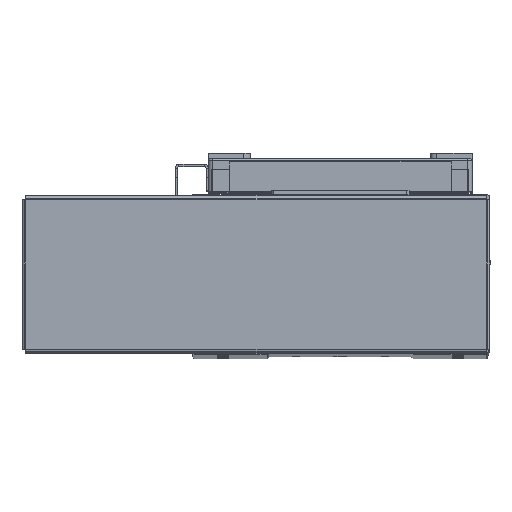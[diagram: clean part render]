
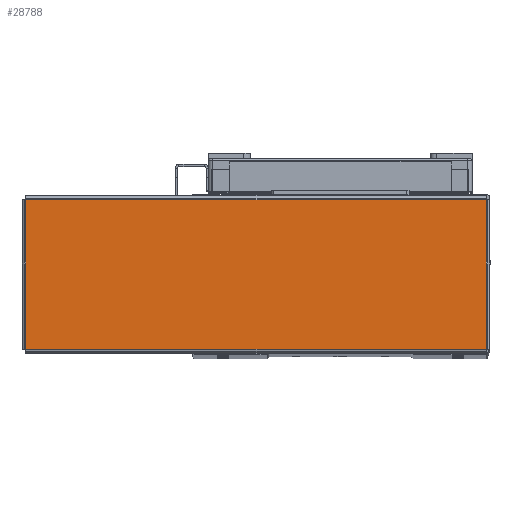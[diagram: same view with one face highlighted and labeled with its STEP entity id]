
A CAD part, top view. The second image highlights one B-rep face of the part: STEP entity #28788.
In plain terms, the highlighted planar face has unit normal (0, 0, 1) as drawn and (0, -1, 0) by its records, which use the part's own axes.
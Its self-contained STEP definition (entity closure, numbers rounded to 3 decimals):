
#8368 = EDGE_LOOP ( 'NONE', ( #22451, #22511, #22500, #22510 ) ) ;
#18808 = EDGE_CURVE ( 'NONE', #27153, #21563, #56174, .T. ) ;
#18830 = EDGE_CURVE ( 'NONE', #21563, #21549, #56208, .T. ) ;
#18870 = EDGE_CURVE ( 'NONE', #21549, #21506, #56309, .T. ) ;
#18872 = EDGE_CURVE ( 'NONE', #21506, #27153, #56298, .T. ) ;
#21506 = VERTEX_POINT ( 'NONE', #58977 ) ;
#21549 = VERTEX_POINT ( 'NONE', #58981 ) ;
#21563 = VERTEX_POINT ( 'NONE', #58961 ) ;
#22451 = ORIENTED_EDGE ( 'NONE', *, *, #18872, .T. ) ;
#22500 = ORIENTED_EDGE ( 'NONE', *, *, #18830, .T. ) ;
#22510 = ORIENTED_EDGE ( 'NONE', *, *, #18870, .T. ) ;
#22511 = ORIENTED_EDGE ( 'NONE', *, *, #18808, .T. ) ;
#27153 = VERTEX_POINT ( 'NONE', #59499 ) ;
#28788 = ADVANCED_FACE ( 'NONE', ( #60674 ), #62256, .F. ) ;
#53287 = AXIS2_PLACEMENT_3D ( 'NONE', #62266, #62253, #62273 ) ;
#56154 = VECTOR ( 'NONE', #57698, 1000. ) ;
#56174 = LINE ( 'NONE', #57682, #56154 ) ;
#56208 = LINE ( 'NONE', #57760, #56210 ) ;
#56210 = VECTOR ( 'NONE', #57781, 1000. ) ;
#56280 = VECTOR ( 'NONE', #58004, 1000. ) ;
#56283 = VECTOR ( 'NONE', #57990, 1000. ) ;
#56298 = LINE ( 'NONE', #57974, #56283 ) ;
#56309 = LINE ( 'NONE', #57997, #56280 ) ;
#57682 = CARTESIAN_POINT ( 'NONE',  ( -103.763, -1., 33.793 ) ) ;
#57698 = DIRECTION ( 'NONE',  ( 0., 0., -1. ) ) ;
#57760 = CARTESIAN_POINT ( 'NONE',  ( -103.793, -1., -33.763 ) ) ;
#57781 = DIRECTION ( 'NONE',  ( 1., 0., 0. ) ) ;
#57974 = CARTESIAN_POINT ( 'NONE',  ( 103.793, -1., 33.763 ) ) ;
#57990 = DIRECTION ( 'NONE',  ( -1., 0., 0. ) ) ;
#57997 = CARTESIAN_POINT ( 'NONE',  ( 103.763, -1., -33.793 ) ) ;
#58004 = DIRECTION ( 'NONE',  ( 0., 0., 1. ) ) ;
#58961 = CARTESIAN_POINT ( 'NONE',  ( -103.763, -1., -33.763 ) ) ;
#58977 = CARTESIAN_POINT ( 'NONE',  ( 103.763, -1., 33.763 ) ) ;
#58981 = CARTESIAN_POINT ( 'NONE',  ( 103.763, -1., -33.763 ) ) ;
#59499 = CARTESIAN_POINT ( 'NONE',  ( -103.763, -1., 33.763 ) ) ;
#60674 = FACE_OUTER_BOUND ( 'NONE', #8368, .T. ) ;
#62253 = DIRECTION ( 'NONE',  ( 0., 1., 0. ) ) ;
#62256 = PLANE ( 'NONE',  #53287 ) ;
#62266 = CARTESIAN_POINT ( 'NONE',  ( 0., -1., 0. ) ) ;
#62273 = DIRECTION ( 'NONE',  ( 0., 0., 1. ) ) ;
